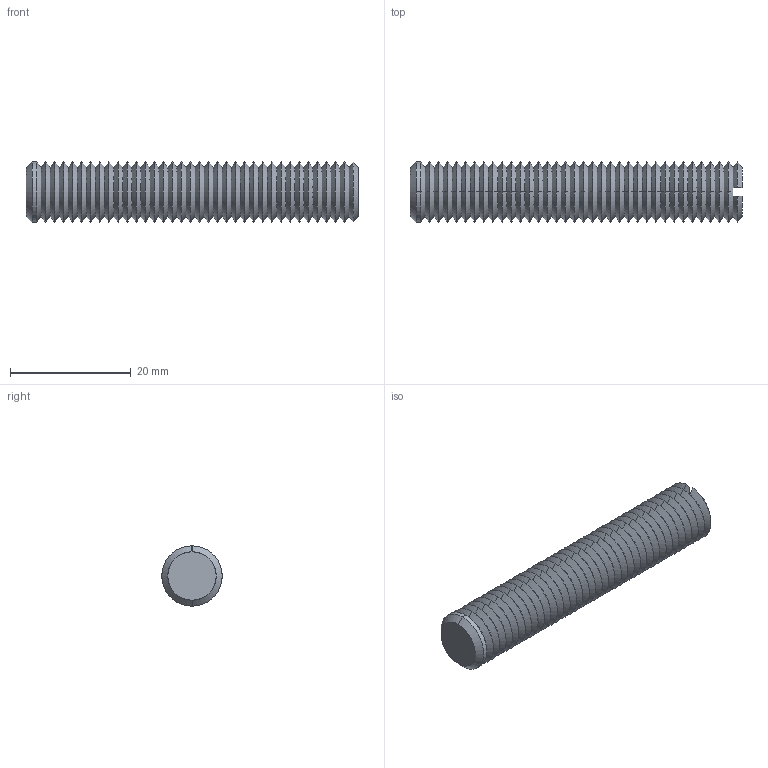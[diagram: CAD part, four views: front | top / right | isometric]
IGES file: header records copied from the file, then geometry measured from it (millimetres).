
Start section: SolidWorks IGES file using analytic representation for surfaces
Global section: file name: C:\Documents and Settings\IANO\Desktop\Temp File\Process pending\EXISTING\34300_v2\34300_v2_20170622_IGES\34300.W0106.igs; native system: SolidWorks 2009; preprocessor: SolidWorks 2009; author: IANO; date: 170622.094044; units: millimetre
Bounding box: 55 x 10 x 10 mm (x, y, z)
Surface area: 2611.2 mm2 (no closed solid volume)
Topology: 0 solids, 0 shells, 152 faces, 672 edges, 672 vertices
Faces by surface type: revolution 146, bspline 6
